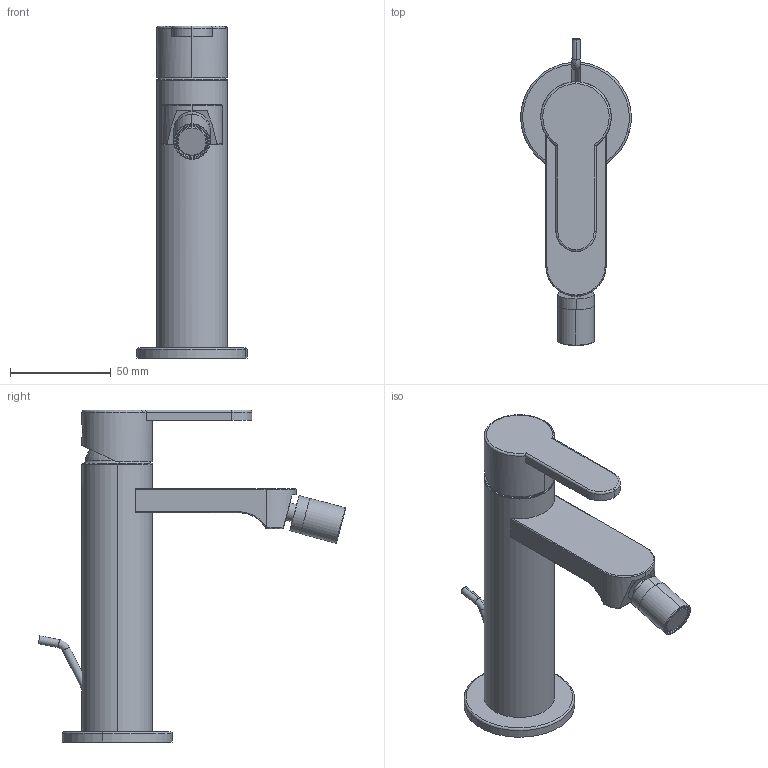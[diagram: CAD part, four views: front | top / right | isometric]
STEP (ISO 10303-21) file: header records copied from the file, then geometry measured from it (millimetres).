
FILE_DESCRIPTION (( 'STEP AP203' ), '1' );
FILE_NAME ('MIK14S.STEP', '2025-06-09T07:30:57', ( '' ), ( '' ), 'SwSTEP 2.0', 'SolidWorks 2024', '' );
FILE_SCHEMA (( 'CONFIG_CONTROL_DESIGN' ));
Length unit declared in the file: millimetre
Products named in the file (16): GRANCO M5x6 ACCIAIO; SNODMIX003; OR607178ACS; AERA161001; TAPPHITO01; GAL575135; ASTINA PER SALTARELLO; MIK14S; EU1861_0; GAL319124; EU1873_0; EU1863_0; OR272ACS; EU0824_ZA; C10.00.0029; EU0855_1
Assembly tree (15 placements, depth 2):
  MIK14S
    EU1873_0
    GAL319124
    GAL575135
    EU1861_0
    EU0824_ZA
    EU1863_0
    OR272ACS
    EU0855_1
    GRANCO M5x6 ACCIAIO
    TAPPHITO01
    OR607178ACS
    SNODMIX003
    AERA161001
    C10.00.0029
    ASTINA PER SALTARELLO
Bounding box: 54.83 x 152.86 x 165.1 mm (x, y, z)
Volume: 123452.7 mm3; surface area: 71873.8 mm2
Topology: 18 solids, 18 shells, 677 faces, 1581 edges, 993 vertices
Faces by surface type: plane 252, cylinder 248, cone 75, torus 56, bspline 39, sphere 7
Entity records: 22830 total; most frequent: CARTESIAN_POINT 5442, DIRECTION 3498, ORIENTED_EDGE 3134, EDGE_CURVE 1567, AXIS2_PLACEMENT_3D 1417, VERTEX_POINT 991, EDGE_LOOP 774, CIRCLE 761
